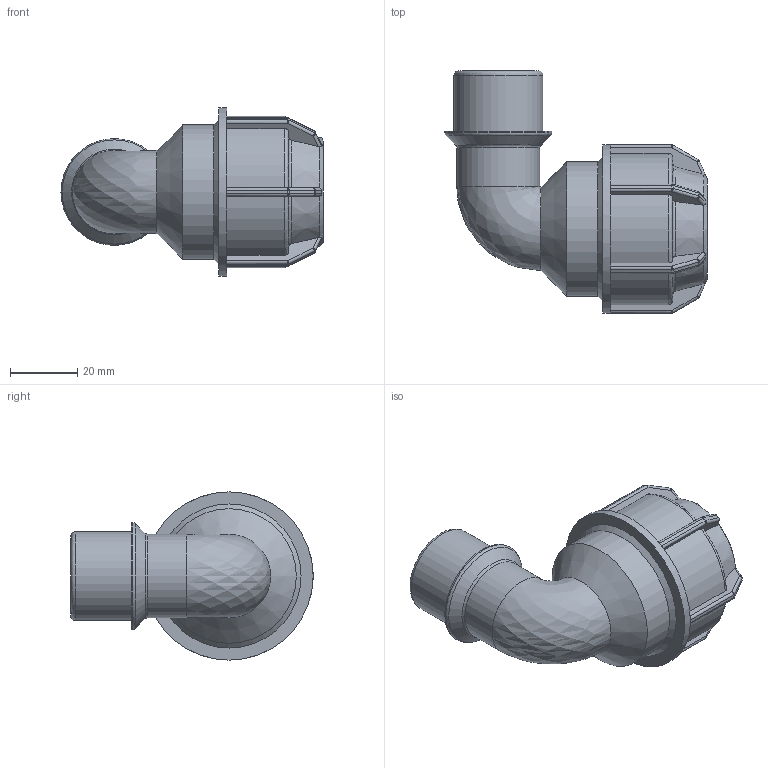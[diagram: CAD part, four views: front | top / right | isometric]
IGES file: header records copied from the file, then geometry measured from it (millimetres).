
Global section: file name: 148500025007.ipt; native system: Autodesk Inventor 2015; preprocessor: unknown; author: KIM; date: 20180409.131244; units: millimetre
Bounding box: 77.86 x 72 x 50 mm (x, y, z)
Volume: 49870.5 mm3; surface area: 21729.5 mm2
Topology: 1 solids, 1 shells, 214 faces, 513 edges, 300 vertices
Faces by surface type: plane 99, cylinder 59, sphere 24, revolution 23, cone 9
Full cylindrical faces by diameter (mm): 24.722 x1, 26.441 x1, 31.729 x1, 40 x1, 50 x1
